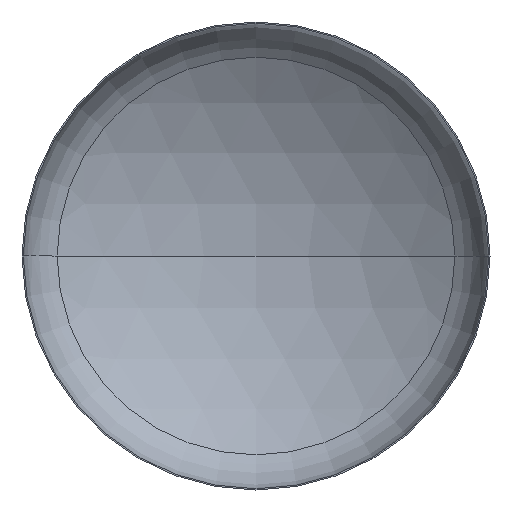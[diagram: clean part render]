
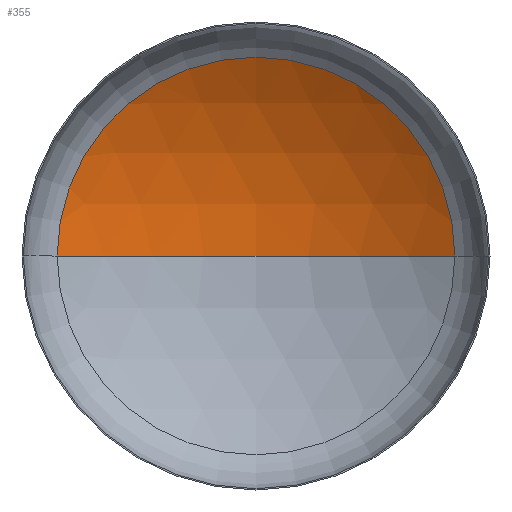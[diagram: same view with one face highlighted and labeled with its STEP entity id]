
A CAD part, front view. The second image highlights one B-rep face of the part: STEP entity #355.
In plain terms, the highlighted spherical face has radius 1760 mm.
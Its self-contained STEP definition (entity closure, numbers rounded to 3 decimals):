
#21 = VERTEX_POINT ( 'NONE', #246 ) ;
#36 = ORIENTED_EDGE ( 'NONE', *, *, #181, .T. ) ;
#39 = DIRECTION ( 'NONE',  ( -1., 0., 0. ) ) ;
#50 = DIRECTION ( 'NONE',  ( 0., 0., -1. ) ) ;
#67 = DIRECTION ( 'NONE',  ( -1., 0., 0. ) ) ;
#75 = SPHERICAL_SURFACE ( 'NONE', #100, 1760. ) ;
#87 = AXIS2_PLACEMENT_3D ( 'NONE', #201, #380, #330 ) ;
#89 = AXIS2_PLACEMENT_3D ( 'NONE', #302, #50, #39 ) ;
#96 = AXIS2_PLACEMENT_3D ( 'NONE', #152, #405, #257 ) ;
#100 = AXIS2_PLACEMENT_3D ( 'NONE', #378, #376, #67 ) ;
#102 = EDGE_LOOP ( 'NONE', ( #122, #213, #36 ) ) ;
#113 = CARTESIAN_POINT ( 'NONE',  ( 934.535, 308.109, 0. ) ) ;
#122 = ORIENTED_EDGE ( 'NONE', *, *, #188, .F. ) ;
#140 = CIRCLE ( 'NONE', #89, 1760. ) ;
#152 = CARTESIAN_POINT ( 'NONE',  ( 0., 308.109, 0. ) ) ;
#181 = EDGE_CURVE ( 'NONE', #322, #364, #360, .T. ) ;
#184 = EDGE_CURVE ( 'NONE', #21, #322, #140, .T. ) ;
#188 = EDGE_CURVE ( 'NONE', #21, #364, #294, .T. ) ;
#201 = CARTESIAN_POINT ( 'NONE',  ( 0., -1183.281, 0. ) ) ;
#213 = ORIENTED_EDGE ( 'NONE', *, *, #184, .T. ) ;
#246 = CARTESIAN_POINT ( 'NONE',  ( 0., 576.719, 0. ) ) ;
#257 = DIRECTION ( 'NONE',  ( 1., 0., 0. ) ) ;
#265 = FACE_OUTER_BOUND ( 'NONE', #102, .T. ) ;
#289 = CARTESIAN_POINT ( 'NONE',  ( -934.535, 308.109, 0. ) ) ;
#294 = CIRCLE ( 'NONE', #87, 1760. ) ;
#302 = CARTESIAN_POINT ( 'NONE',  ( 0., -1183.281, 0. ) ) ;
#322 = VERTEX_POINT ( 'NONE', #113 ) ;
#330 = DIRECTION ( 'NONE',  ( 1., 0., 0. ) ) ;
#355 = ADVANCED_FACE ( 'NONE', ( #265 ), #75, .F. ) ;
#360 = CIRCLE ( 'NONE', #96, 934.535 ) ;
#364 = VERTEX_POINT ( 'NONE', #289 ) ;
#376 = DIRECTION ( 'NONE',  ( 0., 0., -1. ) ) ;
#378 = CARTESIAN_POINT ( 'NONE',  ( 0., -1183.281, 0. ) ) ;
#380 = DIRECTION ( 'NONE',  ( 0., 0., 1. ) ) ;
#405 = DIRECTION ( 'NONE',  ( 0., -1., 0. ) ) ;
